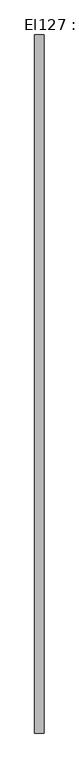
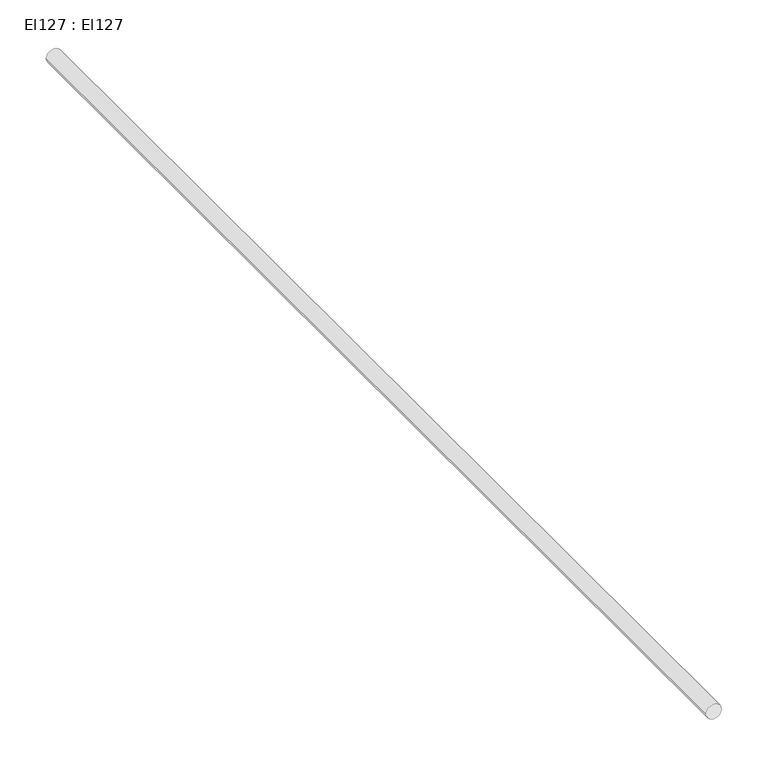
"""IFC4 building model written with IfcOpenShell, lengths in millimetres: cable carrier segment geometry, El127 : El127."""

from ifc_helpers import new_model, si_unit, point, frame, frame_2d, origin, place, context, project, spatial, circle_curve, trimmed, segment, composite_curve, outline, extrude, source, transform, mapped, element, save


def el127_el127_ad4b70b6(model_context):
    return source(origin(), model_context, "Body", "SweptSolid", [
        extrude(outline(composite_curve([segment(trimmed(circle_curve(frame_2d((2950.0, 27630.0)), 9.5), [point((2950.0, 27620.5))], [point((2950.0, 27639.5))], False, "CARTESIAN"), True, "CONTINUOUS"), segment(trimmed(circle_curve(frame_2d((2950.0, 27630.0)), 9.5), [point((2950.0, 27639.5))], [point((2950.0, 27620.5))], False, "CARTESIAN"), True, "CONTINUOUS")], self_intersect=False)), frame((0.0, 10941.283, 0.0), z_axis=(0.0, 1.0, 0.0), x_axis=(0.0, 0.0, 1.0)), (0.0, 0.0, 1.0), 1420.03),
    ])


if __name__ == "__main__":
    model = new_model("IFC4")
    model_context = context("Model", 3, world=origin())
    ifc_project = project(units=[si_unit("LENGTHUNIT", "METRE", prefix="MILLI")], contexts=[model_context])
    site = spatial("IfcSite", under=ifc_project)
    building = spatial("IfcBuilding", under=site)
    placement = place(None, origin())
    el127_el127_shape = el127_el127_ad4b70b6(model_context)
    element("IfcCableCarrierSegment", 1, ObjectType="El127 : El127", at=placement, inside=building, context=model_context, shape_type="MappedRepresentation", body=[
        mapped(el127_el127_shape, transform((0.0, 0.0, 0.0), x_axis=(1.0, 0.0, 0.0), y_axis=(0.0, 1.0, 0.0), z_axis=(0.0, 0.0, 1.0))),
    ])
    save(model, "model.ifc")
